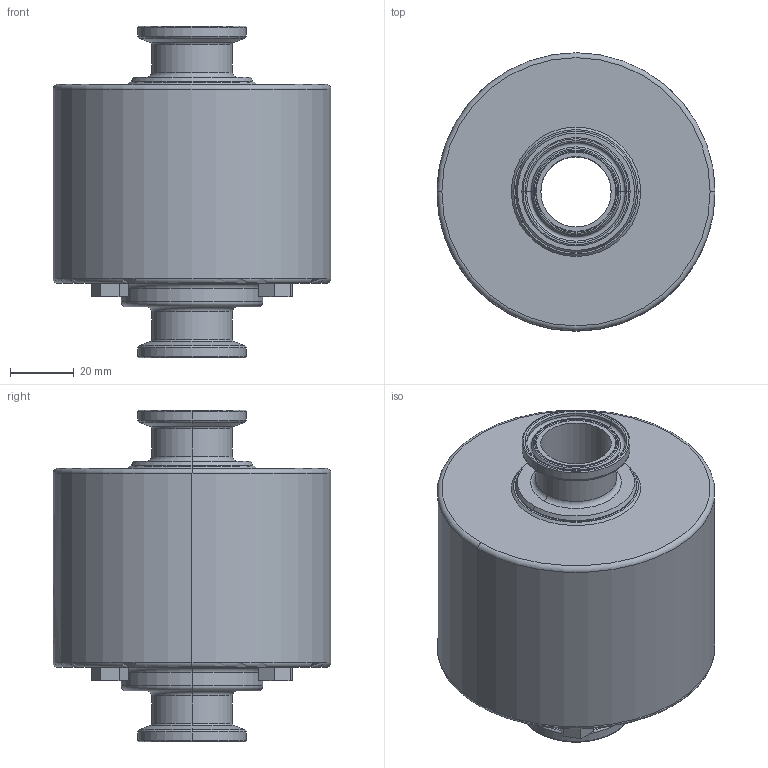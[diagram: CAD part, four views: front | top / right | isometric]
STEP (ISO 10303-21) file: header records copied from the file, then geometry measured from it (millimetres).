
FILE_DESCRIPTION (( 'STEP AP214' ), '1' );
FILE_NAME ('SCS(M)-606010.STEP', '2013-01-28T15:46:18', ( '' ), ( '' ), 'SwSTEP 2.0', 'SolidWorks 2011', '' );
FILE_SCHEMA (( 'AUTOMOTIVE_DESIGN' ));
Length unit declared in the file: inch
Products named in the file (1): SCS(M)-606010
Bounding box: 87.33 x 87.33 x 104.14 mm (x, y, z)
Volume: 364235.3 mm3; surface area: 43760.6 mm2
Topology: 1 solids, 5 shells, 139 faces, 298 edges, 172 vertices
Faces by surface type: plane 43, torus 40, cylinder 32, cone 24
Entity records: 4238 total; most frequent: CARTESIAN_POINT 726, DIRECTION 716, ORIENTED_EDGE 572, AXIS2_PLACEMENT_3D 294, EDGE_CURVE 286, VERTEX_POINT 172, EDGE_LOOP 156, CIRCLE 154
